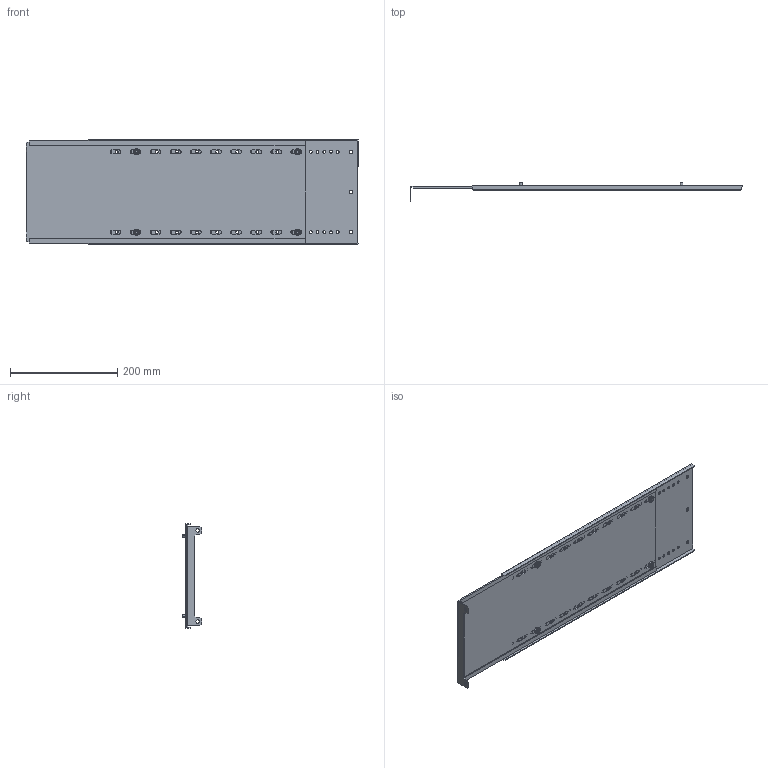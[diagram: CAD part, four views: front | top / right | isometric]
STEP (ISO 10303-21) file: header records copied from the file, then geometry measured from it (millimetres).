
FILE_DESCRIPTION (( 'STEP AP214' ), '1' );
FILE_NAME ('FO-00-SWVB-020-060 Ïåðåãîðîäêà ñåêöèîíèðîâàíèÿ âåðòèêàëüíàÿ äëÿ âåðòèêàëüíîãî øèííîãî îòñåêà 200õ600 ìì â øêàô ãëóáèíîé 1000 ìì.STEP', '2025-08-08T09:00:33', ( '' ), ( '' ), 'SwSTEP 2.0', 'SolidWorks 2023', '' );
FILE_SCHEMA (( 'AUTOMOTIVE_DESIGN' ));
Length unit declared in the file: millimetre
Products named in the file (4): Перегородка секционирования ап 200х600; FO-00-SWVB-020-060 Перегородка секционирования вертикальная для вертикального шинного отсека 200х600 мм в шкаф глубиной 1000 мм; Перегородка секционирования 200х600; Болты М5х200
Assembly tree (4 placements, depth 2):
  FO-00-SWVB-020-060 Перегородка секционирования вертикальная для вертикального шинного отсека 200х600 мм в шкаф глубиной 1000 мм
    Перегородка секционирования 200х600
    Перегородка секционирования ап 200х600
    Болты М5х200  x2
Bounding box: 619.75 x 35.7 x 194.5 mm (x, y, z)
Volume: 320050.8 mm3; surface area: 417936.8 mm2
Topology: 6 solids, 6 shells, 402 faces, 1122 edges, 740 vertices
Faces by surface type: cylinder 270, plane 108, torus 16, cone 8
Entity records: 11982 total; most frequent: DIRECTION 2170, CARTESIAN_POINT 1987, ORIENTED_EDGE 1968, EDGE_CURVE 984, AXIS2_PLACEMENT_3D 835, VERTEX_POINT 652, EDGE_LOOP 542, LINE 500
